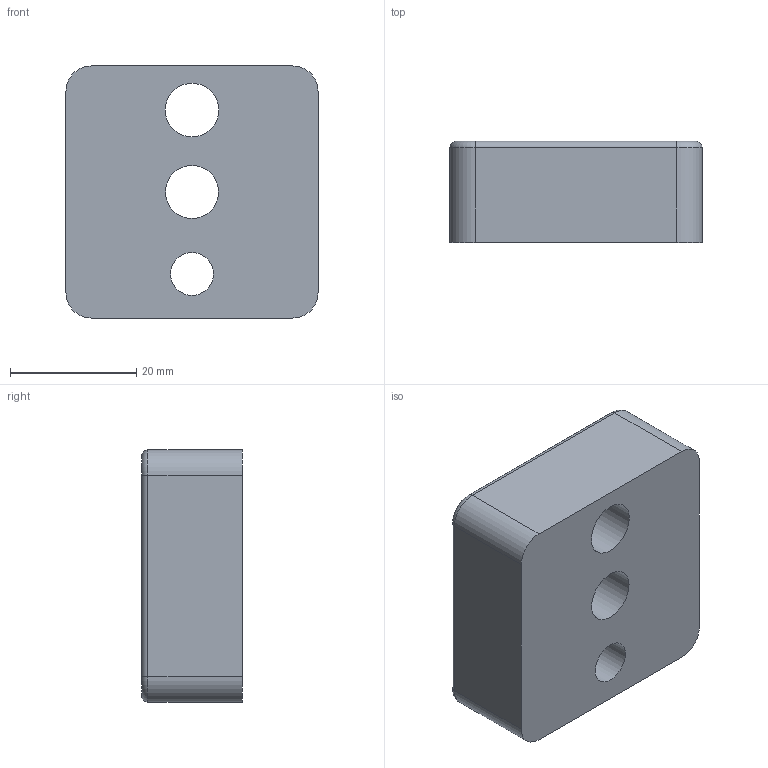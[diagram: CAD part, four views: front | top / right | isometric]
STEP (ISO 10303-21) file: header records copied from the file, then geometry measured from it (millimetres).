
FILE_DESCRIPTION (( 'STEP AP214' ), '1' );
FILE_NAME ('7003-00405.STEP', '2021-01-25T10:00:40', ( '' ), ( '' ), 'SwSTEP 2.0', 'SolidWorks 2019', '' );
FILE_SCHEMA (( 'AUTOMOTIVE_DESIGN' ));
Length unit declared in the file: millimetre
Products named in the file (1): 7003-00405
Bounding box: 40 x 16 x 40 mm (x, y, z)
Volume: 22065.1 mm3; surface area: 6581.1 mm2
Topology: 1 solids, 1 shells, 26 faces, 58 edges, 35 vertices
Faces by surface type: cylinder 12, plane 7, torus 4, cone 3
Full cylindrical faces by diameter (mm): 6.8 x1, 8.4 x1, 8.5 x1, 14 x1
Entity records: 758 total; most frequent: DIRECTION 136, CARTESIAN_POINT 113, ORIENTED_EDGE 102, AXIS2_PLACEMENT_3D 58, EDGE_CURVE 51, EDGE_LOOP 40, VERTEX_POINT 35, CIRCLE 31
